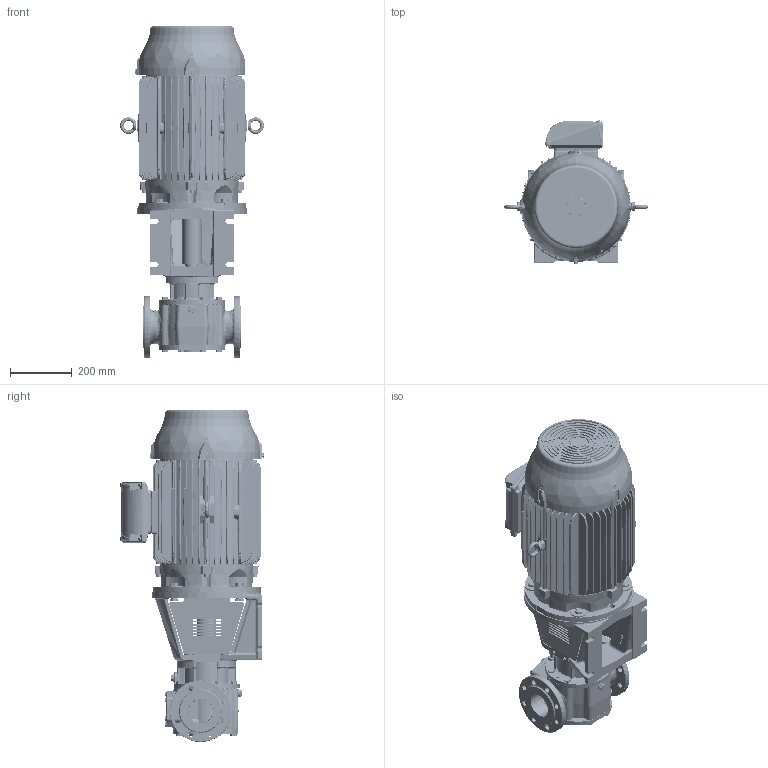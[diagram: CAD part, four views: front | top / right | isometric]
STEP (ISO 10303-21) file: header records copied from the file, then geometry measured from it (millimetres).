
FILE_DESCRIPTION(/* description */ (''),/* implementation_level */ '2;1');
FILE_NAME(/* name */ 'C:\V\JPP\Designs\GEAR PUMPS\PRODUCT ENGINEERING\EUROPE\TG BLOC\TG BLOC_58-80_G2_O_NRV-_180L-STEP.stp',/* time_stamp */ '2021-03-19T10:23:01+01:00',/* author */ ('A77THR'),/* organization */ (''),/* preprocessor_version */ 'ST-DEVELOPER v18.1',/* originating_system */ 'Autodesk Inventor 2020',/* authorisation */ '');
FILE_SCHEMA (('AUTOMOTIVE_DESIGN { 1 0 10303 214 3 1 1 }'));
Length unit declared in the file: millimetre
Products named in the file (1): TG BLOC_58-80_G2_O_NRV-_180L
Bounding box: 466 x 466.9 x 1076.7 mm (x, y, z)
Volume: 61900374.9 mm3; surface area: 2773059.7 mm2
Topology: 4 solids, 4 shells, 5121 faces, 13164 edges, 8206 vertices
Faces by surface type: plane 1825, bspline 1452, cylinder 1171, cone 496, torus 126, sphere 51
Full cylindrical faces by diameter (mm): 4 x1, 4.5 x8, 4.917 x8, 5 x4, 6.3 x1, 6.647 x1, 7 x4, 7.323 x8, 8 x7, 9 x8, 10 x8, 10.106 x7, 10.2 x2, 11.053 x4, 11.4 x8, 11.445 x2, 11.6 x3, 12 x4, 13 x1, 13.157 x2, 13.2 x2, 14 x8, 15.011 x2, 16 x5, 17.2 x20, 18 x18, 19 x6, 20.955 x1, 21 x1, 21.2 x1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
Entity records: 235044 total; most frequent: CARTESIAN_POINT 115547, ORIENTED_EDGE 26176, DIRECTION 21281, EDGE_CURVE 13088, AXIS2_PLACEMENT_3D 8344, VERTEX_POINT 8208, EDGE_LOOP 5478, FACE_OUTER_BOUND 5121
